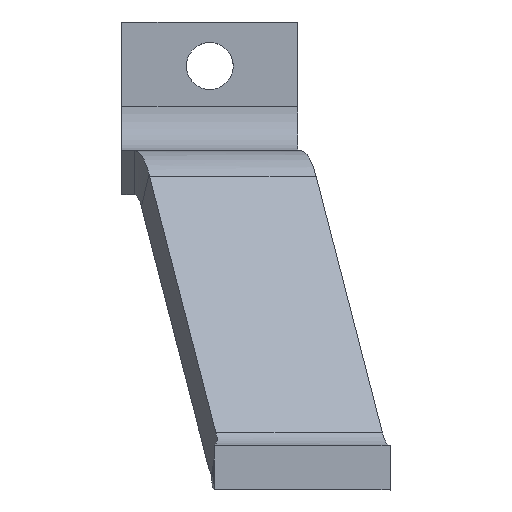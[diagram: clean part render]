
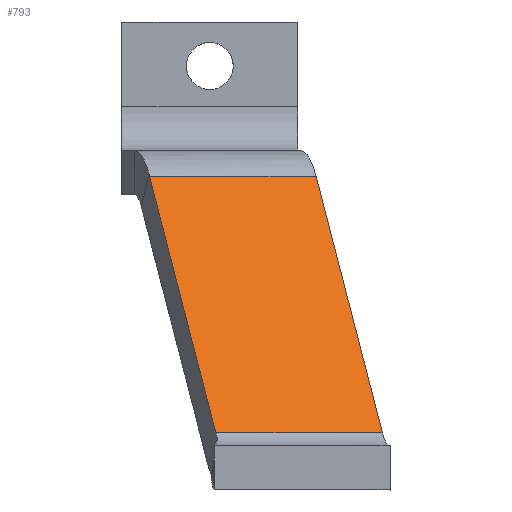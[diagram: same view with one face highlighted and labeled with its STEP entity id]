
A CAD part, top view. The second image highlights one B-rep face of the part: STEP entity #793.
In plain terms, the highlighted planar face has unit normal (0.182, 0.707, 0.683).
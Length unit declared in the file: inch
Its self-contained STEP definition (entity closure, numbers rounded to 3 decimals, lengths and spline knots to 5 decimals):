
#8 = VECTOR ( 'NONE', #46, 39.37008 ) ;
#46 = DIRECTION ( 'NONE',  ( 0.966, 0., -0.258 ) ) ;
#86 = CARTESIAN_POINT ( 'NONE',  ( -0.64696, 0.4863, -0.60626 ) ) ;
#93 = LINE ( 'NONE', #86, #8 ) ;
#161 = DIRECTION ( 'NONE',  ( 0., -0.695, 0.719 ) ) ;
#167 = DIRECTION ( 'NONE',  ( 0.182, 0.707, 0.683 ) ) ;
#174 = FACE_OUTER_BOUND ( 'NONE', #452, .T. ) ;
#176 = CARTESIAN_POINT ( 'NONE',  ( -0.02454, -0.17096, -0.09202 ) ) ;
#222 = LINE ( 'NONE', #869, #1041 ) ;
#249 = VERTEX_POINT ( 'NONE', #310 ) ;
#283 = PLANE ( 'NONE',  #486 ) ;
#292 = VERTEX_POINT ( 'NONE', #747 ) ;
#310 = CARTESIAN_POINT ( 'NONE',  ( -0.64696, 0.4863, -0.60626 ) ) ;
#442 = EDGE_CURVE ( 'NONE', #1372, #249, #792, .T. ) ;
#452 = EDGE_LOOP ( 'NONE', ( #730, #944, #1663, #1550 ) ) ;
#466 = CARTESIAN_POINT ( 'NONE',  ( 0.2086, 2.67672, -3.10138 ) ) ;
#486 = AXIS2_PLACEMENT_3D ( 'NONE', #176, #167, #161 ) ;
#543 = CARTESIAN_POINT ( 'NONE',  ( -1.21135, 2.67672, -2.72272 ) ) ;
#648 = EDGE_CURVE ( 'NONE', #292, #688, #1563, .T. ) ;
#688 = VERTEX_POINT ( 'NONE', #466 ) ;
#730 = ORIENTED_EDGE ( 'NONE', *, *, #847, .T. ) ;
#747 = CARTESIAN_POINT ( 'NONE',  ( 0.77299, 0.4863, -0.98492 ) ) ;
#792 = LINE ( 'NONE', #1396, #1048 ) ;
#793 = ADVANCED_FACE ( 'NONE', ( #174 ), #283, .T. ) ;
#832 = DIRECTION ( 'NONE',  ( -0.182, 0.707, -0.683 ) ) ;
#840 = CARTESIAN_POINT ( 'NONE',  ( 0.77299, 0.4863, -0.98492 ) ) ;
#847 = EDGE_CURVE ( 'NONE', #249, #292, #93, .T. ) ;
#869 = CARTESIAN_POINT ( 'NONE',  ( 0.2086, 2.67672, -3.10138 ) ) ;
#880 = DIRECTION ( 'NONE',  ( -0.966, 0., 0.258 ) ) ;
#944 = ORIENTED_EDGE ( 'NONE', *, *, #648, .T. ) ;
#1041 = VECTOR ( 'NONE', #880, 39.37008 ) ;
#1048 = VECTOR ( 'NONE', #1388, 39.37008 ) ;
#1372 = VERTEX_POINT ( 'NONE', #543 ) ;
#1388 = DIRECTION ( 'NONE',  ( 0.182, -0.707, 0.683 ) ) ;
#1396 = CARTESIAN_POINT ( 'NONE',  ( -1.21135, 2.67672, -2.72272 ) ) ;
#1550 = ORIENTED_EDGE ( 'NONE', *, *, #442, .T. ) ;
#1563 = LINE ( 'NONE', #840, #1567 ) ;
#1567 = VECTOR ( 'NONE', #832, 39.37008 ) ;
#1663 = ORIENTED_EDGE ( 'NONE', *, *, #1684, .T. ) ;
#1684 = EDGE_CURVE ( 'NONE', #688, #1372, #222, .T. ) ;
